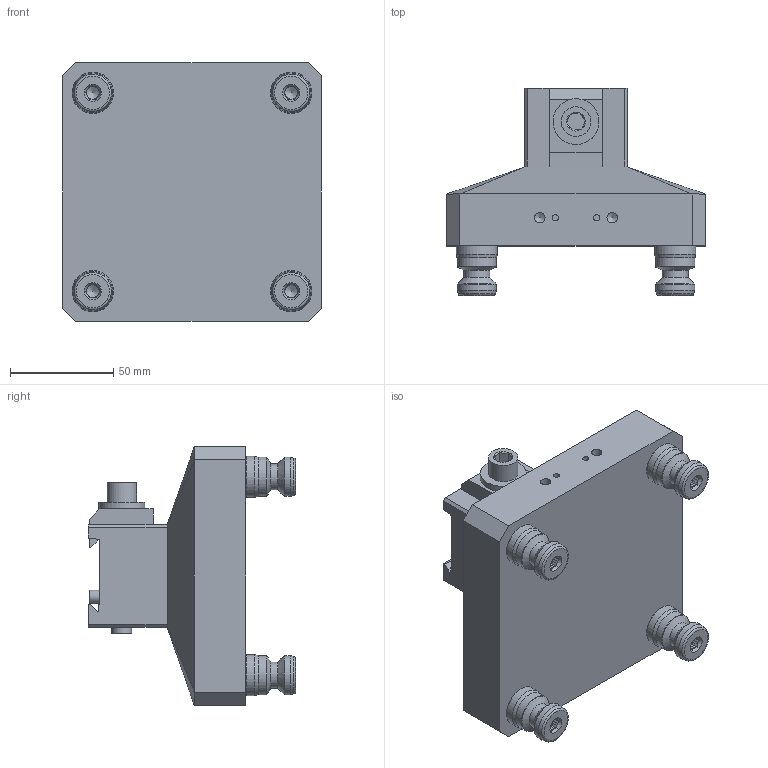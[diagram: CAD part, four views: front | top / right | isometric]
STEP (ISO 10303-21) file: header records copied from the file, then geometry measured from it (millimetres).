
FILE_DESCRIPTION (( 'STEP AP214' ), '1' );
FILE_NAME ('A96-D22_WEBSITE.STEP', '2025-08-11T06:59:27', ( '' ), ( '' ), 'SwSTEP 2.0', 'SolidWorks 2024', '' );
FILE_SCHEMA (( 'AUTOMOTIVE_DESIGN' ));
Length unit declared in the file: inch
Products named in the file (15): D_SLD375_WEBSITE_SLD375; D_HW.0480X0625.CS_WEBSITE_DEFAULT; D_A96-D22-1_WEBSITE; D_HW.72170_WEBSITE_DEFAULT; D_PS20F-1_WEBSITE_HARD TURN; D_HW.0406X0875.FW_WEBSITE_DEFAULT; D_HW.72132.SHCS_WEBSITE_91251A587; D_PS20F_WEBSITE; D_LP250-N_WEBSITE_NO THREADS ; D_CDM375_WEBSITE; D_39874.CPSS_WEBSITE_91390A162; D_D22_WEBSITE; D_D22-1_WEBSITE_D221M; D_LP375_WEBSITE_NO THREADS; A96-D22_WEBSITE
Assembly tree (19 placements, depth 3):
  A96-D22_WEBSITE
    D_A96-D22-1_WEBSITE
    D_PS20F_WEBSITE  x4
      D_PS20F-1_WEBSITE_HARD TURN
      D_39874.CPSS_WEBSITE_91390A162
    D_D22_WEBSITE
      D_D22-1_WEBSITE_D221M
      D_LP375_WEBSITE_NO THREADS  x2
      D_HW.0480X0625.CS_WEBSITE_DEFAULT
      D_HW.0406X0875.FW_WEBSITE_DEFAULT
      D_HW.72170_WEBSITE_DEFAULT
      D_CDM375_WEBSITE
      D_SLD375_WEBSITE_SLD375
      D_HW.72132.SHCS_WEBSITE_91251A587  x2
      D_LP250-N_WEBSITE_NO THREADS 
Bounding box: 125 x 100.2 x 125 mm (x, y, z)
Volume: 602503.3 mm3; surface area: 98626.3 mm2
Topology: 20 solids, 20 shells, 498 faces, 1073 edges, 651 vertices
Faces by surface type: plane 276, cone 105, cylinder 92, torus 24, bspline 1
Full cylindrical faces by diameter (mm): 3.03 x2, 3.759 x3, 4.039 x2, 4.803 x1, 4.826 x2, 5 x2, 6.147 x4, 6.35 x1, 6.363 x1, 6.528 x2, 7.937 x1, 7.938 x2, 8.5 x8, 8.509 x2, 9.525 x3, 9.535 x2, 9.555 x2, 10 x8, 10.312 x1, 10.319 x1, 11.906 x2, 12.497 x4, 12.7 x3, 14.288 x1, 15.913 x1, 15.977 x1, 15.992 x4, 16.02 x4, 19.012 x8, 19.972 x4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
Entity records: 9018 total; most frequent: CARTESIAN_POINT 1978, DIRECTION 1143, ORIENTED_EDGE 876, AXIS2_PLACEMENT_3D 453, EDGE_CURVE 438, EDGE_LOOP 383, FACE_OUTER_BOUND 317, VERTEX_POINT 313
